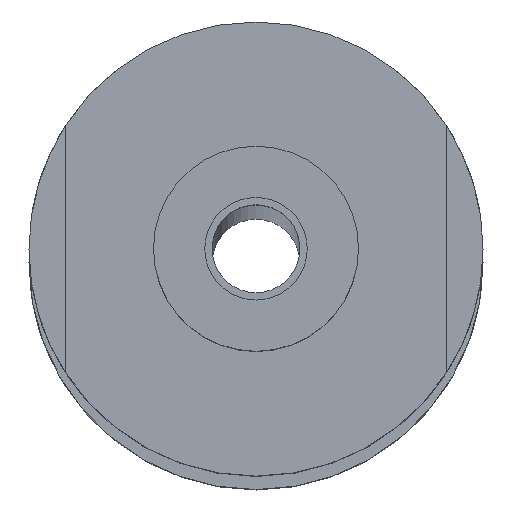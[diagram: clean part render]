
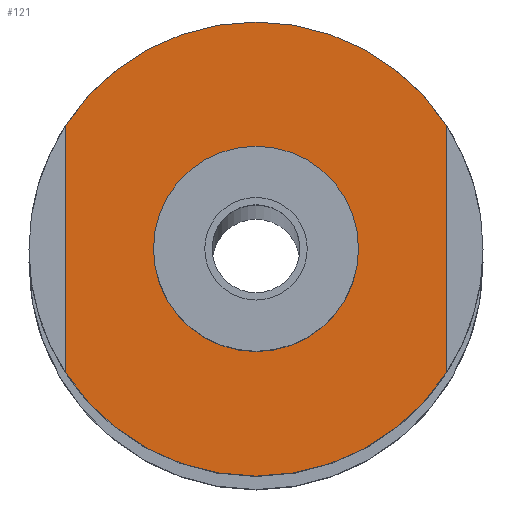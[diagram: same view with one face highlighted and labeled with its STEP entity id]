
A CAD part, top view. The second image highlights one B-rep face of the part: STEP entity #121.
In plain terms, the highlighted planar face has unit normal (0, 0, 1).
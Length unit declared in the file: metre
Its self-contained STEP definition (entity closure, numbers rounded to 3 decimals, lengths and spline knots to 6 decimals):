
#121=ADVANCED_FACE('37:1511',(#238,#239),#240,.T.);
#238=FACE_OUTER_BOUND('',#364,.T.);
#239=FACE_BOUND('',#365,.T.);
#240=PLANE('',#366);
#364=EDGE_LOOP('',(#596,#597,#598,#599,#600,#601));
#365=EDGE_LOOP('',(#602,#603));
#366=AXIS2_PLACEMENT_3D('',#604,#605,#606);
#596=ORIENTED_EDGE('',*,*,#761,.F.);
#597=ORIENTED_EDGE('',*,*,#760,.F.);
#598=ORIENTED_EDGE('',*,*,#756,.F.);
#599=ORIENTED_EDGE('',*,*,#688,.F.);
#600=ORIENTED_EDGE('',*,*,#687,.F.);
#601=ORIENTED_EDGE('',*,*,#751,.T.);
#602=ORIENTED_EDGE('',*,*,#749,.F.);
#603=ORIENTED_EDGE('',*,*,#693,.F.);
#604=CARTESIAN_POINT('',(0.0,0.0,2.905));
#605=DIRECTION('',(0.0,0.0,1.0));
#606=DIRECTION('',(1.0,0.0,0.0));
#687=EDGE_CURVE('37:1561',#812,#814,#815,.F.);
#688=EDGE_CURVE('37:1552',#814,#816,#817,.F.);
#693=EDGE_CURVE('',#822,#825,#826,.T.);
#749=EDGE_CURVE('37:1539',#825,#822,#907,.T.);
#751=EDGE_CURVE('37:3142',#812,#909,#910,.T.);
#756=EDGE_CURVE('37:2641',#816,#917,#918,.F.);
#760=EDGE_CURVE('37:1558',#917,#922,#923,.F.);
#761=EDGE_CURVE('37:1549',#922,#909,#924,.F.);
#812=VERTEX_POINT('',#1001);
#814=VERTEX_POINT('',#1004);
#815=CIRCLE('',#1005,0.0155);
#816=VERTEX_POINT('',#1006);
#817=CIRCLE('',#1007,0.0155);
#822=VERTEX_POINT('',#1013);
#825=VERTEX_POINT('',#1017);
#826=CIRCLE('',#1018,0.007);
#907=CIRCLE('',#1116,0.007);
#909=VERTEX_POINT('',#1118);
#910=LINE('',#1119,#1120);
#917=VERTEX_POINT('',#1130);
#918=LINE('',#1131,#1132);
#922=VERTEX_POINT('',#1137);
#923=CIRCLE('',#1138,0.0155);
#924=CIRCLE('',#1139,0.0155);
#1001=CARTESIAN_POINT('',(-0.013092,0.008536,2.905));
#1004=CARTESIAN_POINT('',(-0.000092,0.015595,2.905));
#1005=AXIS2_PLACEMENT_3D('',#1221,#1222,#1223);
#1006=CARTESIAN_POINT('',(0.012908,0.008536,2.905));
#1007=AXIS2_PLACEMENT_3D('',#1224,#1225,#1226);
#1013=CARTESIAN_POINT('',(0.006908,0.000095,2.905));
#1017=CARTESIAN_POINT('',(-0.007092,0.000095,2.905));
#1018=AXIS2_PLACEMENT_3D('',#1232,#1233,#1234);
#1116=AXIS2_PLACEMENT_3D('',#1318,#1319,#1320);
#1118=CARTESIAN_POINT('',(-0.013092,-0.008346,2.905));
#1119=CARTESIAN_POINT('',(-0.013092,0.000048,2.905));
#1120=VECTOR('',#1321,1.0);
#1130=CARTESIAN_POINT('',(0.012908,-0.008346,2.905));
#1131=CARTESIAN_POINT('',(0.012908,0.000048,2.905));
#1132=VECTOR('',#1325,1.0);
#1137=CARTESIAN_POINT('',(-0.000092,-0.015405,2.905));
#1138=AXIS2_PLACEMENT_3D('',#1330,#1331,#1332);
#1139=AXIS2_PLACEMENT_3D('',#1333,#1334,#1335);
#1221=CARTESIAN_POINT('',(-0.000092,0.000095,2.905));
#1222=DIRECTION('',(0.0,0.0,1.0));
#1223=DIRECTION('',(1.0,0.0,0.0));
#1224=CARTESIAN_POINT('',(-0.000092,0.000095,2.905));
#1225=DIRECTION('',(0.0,0.0,1.0));
#1226=DIRECTION('',(1.0,0.0,0.0));
#1232=CARTESIAN_POINT('',(-0.000092,0.000095,2.905));
#1233=DIRECTION('',(0.0,0.0,1.0));
#1234=DIRECTION('',(1.0,0.0,-0.0));
#1318=CARTESIAN_POINT('',(-0.000092,0.000095,2.905));
#1319=DIRECTION('',(0.0,0.0,1.0));
#1320=DIRECTION('',(1.0,0.0,-0.0));
#1321=DIRECTION('',(0.,-1.0,0.0));
#1325=DIRECTION('',(0.,1.0,0.0));
#1330=CARTESIAN_POINT('',(-0.000092,0.000095,2.905));
#1331=DIRECTION('',(0.0,0.0,1.0));
#1332=DIRECTION('',(1.0,0.0,0.0));
#1333=CARTESIAN_POINT('',(-0.000092,0.000095,2.905));
#1334=DIRECTION('',(0.0,0.0,1.0));
#1335=DIRECTION('',(1.0,0.0,0.0));
